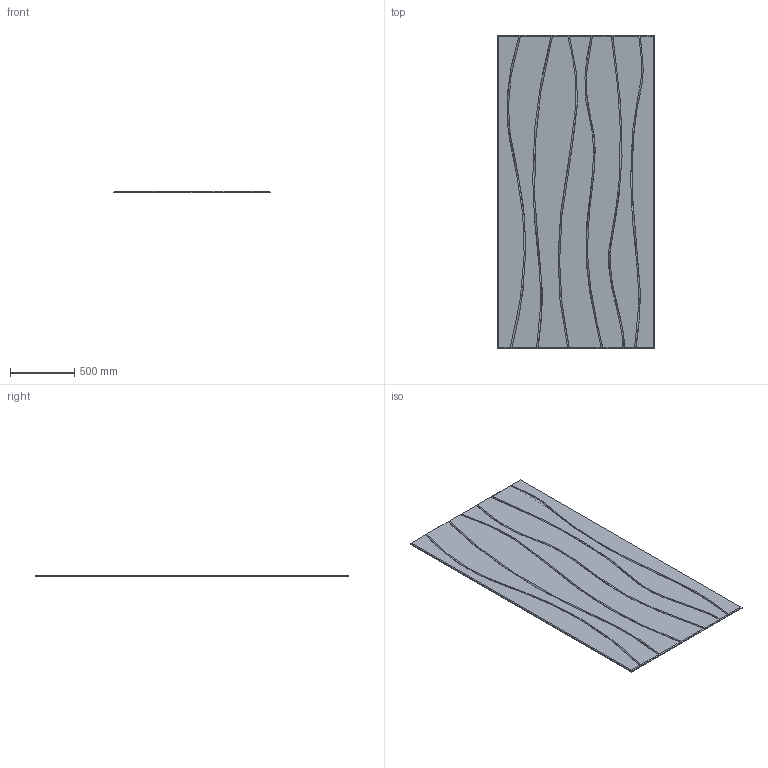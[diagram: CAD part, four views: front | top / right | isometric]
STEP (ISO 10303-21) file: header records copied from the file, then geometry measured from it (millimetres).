
FILE_DESCRIPTION(/* description */ (''),/* implementation_level */ '2;1');
FILE_NAME(/* name */ 'Y:\Design and Engineering\MaterialLogiq\CAD ASSETS\MASTER\PET ENGRAVED\WEB ASSETS\Organic 6.stp',/* time_stamp */ '2024-09-04T15:07:36-05:00',/* author */ ('Grant Baker'),/* organization */ (''),/* preprocessor_version */ 'ST-DEVELOPER v19',/* originating_system */ 'Autodesk Inventor 2023',/* authorisation */ '');
FILE_SCHEMA (('AUTOMOTIVE_DESIGN { 1 0 10303 214 3 1 1 }'));
Length unit declared in the file: inch
Products named in the file (1): Organic 6
Bounding box: 1219.2 x 2438.4 x 12.7 mm (x, y, z)
Volume: 37015403.3 mm3; surface area: 6088637.4 mm2
Topology: 1 solids, 1 shells, 41 faces, 89 edges, 50 vertices
Faces by surface type: plane 29, bspline 12
Entity records: 8671 total; most frequent: CARTESIAN_POINT 7870, ORIENTED_EDGE 178, DIRECTION 106, EDGE_CURVE 89, VERTEX_POINT 50, LINE 46, VECTOR 46, B_SPLINE_CURVE_WITH_KNOTS 43
